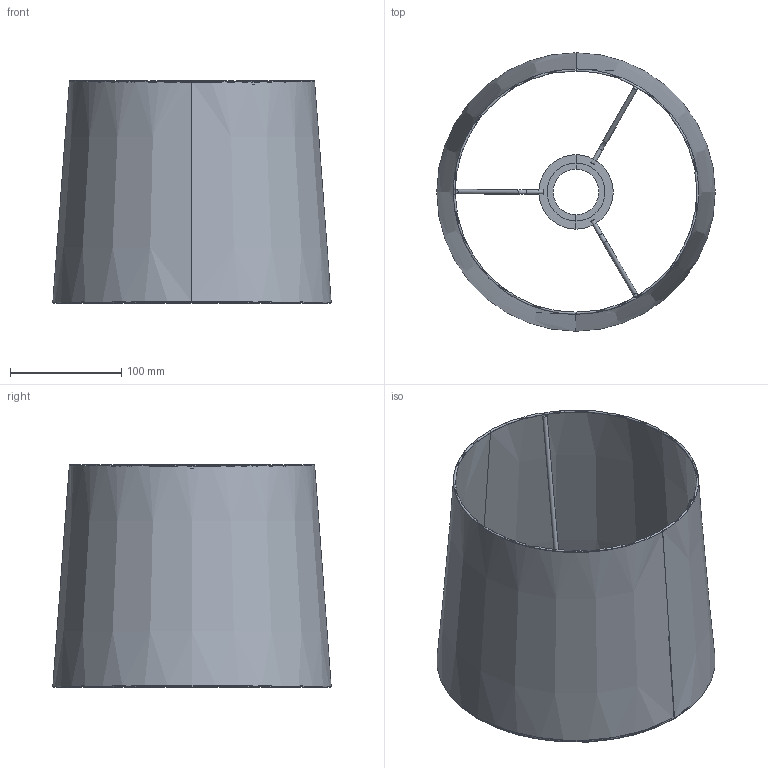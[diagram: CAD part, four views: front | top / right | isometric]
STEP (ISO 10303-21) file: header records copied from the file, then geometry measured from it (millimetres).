
FILE_DESCRIPTION(/* description */ (''),/* implementation_level */ '2;1');
FILE_NAME(/* name */ 'C:\Users\francosartori\Documents\Modelos\01_Digitalizados\0_Pantallas\03_Publicación\2P012X\2P0121.stp',/* time_stamp */ '2020-05-29T12:19:10+02:00',/* author */ ('FrancoSartori'),/* organization */ (''),/* preprocessor_version */ 'ST-DEVELOPER v18.1',/* originating_system */ 'AutoCAD Mechanical',/* authorisation */ '');
FILE_SCHEMA (('AUTOMOTIVE_DESIGN { 1 0 10303 214 3 1 1 }'));
Length unit declared in the file: millimetre
Products named in the file (2): Product; 2P012X_SHADE - Shade-448400-_3D_
Assembly tree (1 placements, depth 2):
  Product
    2P012X_SHADE - Shade-448400-_3D_
Bounding box: 249.85 x 249.85 x 200 mm (x, y, z)
Volume: 246582.5 mm3; surface area: 601656.8 mm2
Topology: 7 solids, 7 shells, 56 faces, 106 edges, 56 vertices
Faces by surface type: cylinder 20, plane 18, torus 10, cone 8
Entity records: 2381 total; most frequent: CARTESIAN_POINT 1223, DIRECTION 242, ORIENTED_EDGE 212, EDGE_CURVE 106, AXIS2_PLACEMENT_3D 101, FACE_OUTER_BOUND 56, EDGE_LOOP 56, VERTEX_POINT 56
